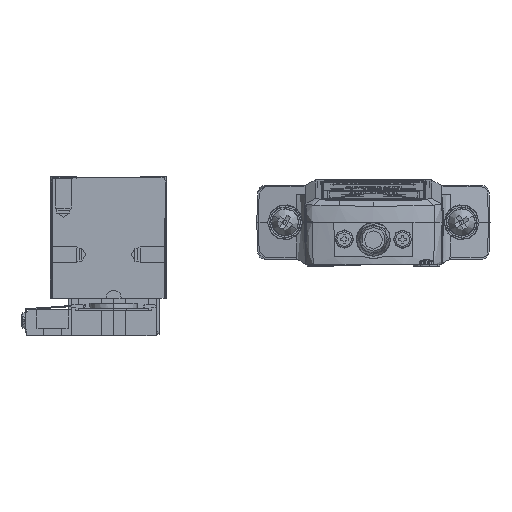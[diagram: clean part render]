
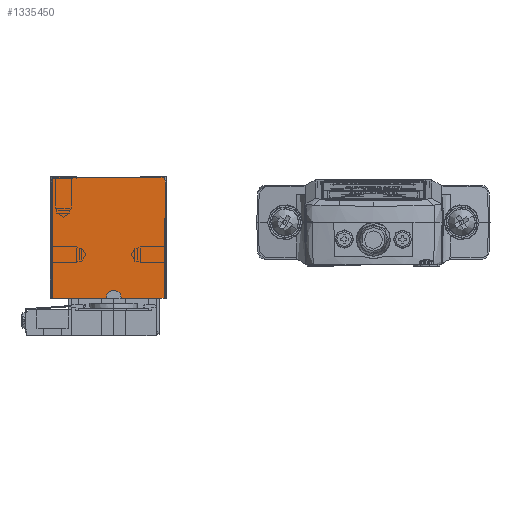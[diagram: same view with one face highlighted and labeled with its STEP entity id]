
A CAD part, left-side view. The second image highlights one B-rep face of the part: STEP entity #1335450.
In plain terms, the highlighted planar face has unit normal (-1, 0, 0).
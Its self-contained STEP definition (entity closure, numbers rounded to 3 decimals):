
#1308020=CARTESIAN_POINT('',(0.,21.5,0.));
#1308030=VERTEX_POINT('',#1308020);
#1308260=CARTESIAN_POINT('',(0.,17.,0.));
#1308270=VERTEX_POINT('',#1308260);
#1308300=CARTESIAN_POINT('',(0.,0.,0.));
#1308310=DIRECTION('',(0.,1.,0.));
#1308320=VECTOR('',#1308310,1.);
#1308330=LINE('',#1308300,#1308320);
#1308340=EDGE_CURVE('',#1308270,#1308030,#1308330,.T.);
#1308580=CARTESIAN_POINT('',(0.,0.5,-8.));
#1308590=VERTEX_POINT('',#1308580);
#1312770=CARTESIAN_POINT('',(0.,21.5,-23.));
#1312780=VERTEX_POINT('',#1312770);
#1312810=CARTESIAN_POINT('',(0.,0.,-23.));
#1312820=DIRECTION('',(0.,-1.,0.));
#1312830=VECTOR('',#1312820,1.);
#1312840=LINE('',#1312810,#1312830);
#1312850=CARTESIAN_POINT('',(0.,11.4,-23.));
#1312860=VERTEX_POINT('',#1312850);
#1312870=EDGE_CURVE('',#1312780,#1312860,#1312840,.T.);
#1313090=CARTESIAN_POINT('',(0.,8.6,-23.));
#1313100=VERTEX_POINT('',#1313090);
#1313130=CARTESIAN_POINT('',(0.,0.,-23.));
#1313140=DIRECTION('',(0.,1.,0.));
#1313150=VECTOR('',#1313140,1.);
#1313160=LINE('',#1313130,#1313150);
#1313170=CARTESIAN_POINT('',(0.,0.5,-23.));
#1313180=VERTEX_POINT('',#1313170);
#1313190=EDGE_CURVE('',#1313180,#1313100,#1313160,.T.);
#1321560=CARTESIAN_POINT('',(0.,0.5,0.));
#1321570=DIRECTION('',(0.,0.,-1.));
#1321580=VECTOR('',#1321570,1.);
#1321590=LINE('',#1321560,#1321580);
#1321600=CARTESIAN_POINT('',(0.,0.5,-7.9));
#1321610=VERTEX_POINT('',#1321600);
#1321620=EDGE_CURVE('',#1321610,#1308590,#1321590,.T.);
#1322490=CARTESIAN_POINT('',(0.,0.2,-1.1));
#1322500=VERTEX_POINT('',#1322490);
#1322530=CARTESIAN_POINT('',(0.,1.1,-1.1));
#1322540=DIRECTION('',(1.,0.,0.));
#1322550=DIRECTION('',(0.,-1.,0.));
#1322560=AXIS2_PLACEMENT_3D('',#1322530,#1322540,#1322550);
#1322570=CIRCLE('',#1322560,0.9);
#1322580=CARTESIAN_POINT('',(0.,1.1,-0.2));
#1322590=VERTEX_POINT('',#1322580);
#1322600=EDGE_CURVE('',#1322590,#1322500,#1322570,.T.);
#1323380=CARTESIAN_POINT('',(0.,21.5,-11.5));
#1323390=DIRECTION('',(0.,0.,-1.));
#1323400=VECTOR('',#1323390,1.);
#1323410=LINE('',#1323380,#1323400);
#1323420=EDGE_CURVE('',#1308030,#1312780,#1323410,.T.);
#1324350=CARTESIAN_POINT('',(0.,10.2,-22.8));
#1324360=DIRECTION('',(1.,0.,0.));
#1324370=DIRECTION('',(0.,-1.,0.));
#1324380=AXIS2_PLACEMENT_3D('',#1324350,#1324360,#1324370);
#1324390=CIRCLE('',#1324380,1.2);
#1324400=CARTESIAN_POINT('',(0.,11.4,-22.8));
#1324410=VERTEX_POINT('',#1324400);
#1324420=CARTESIAN_POINT('',(0.,10.2,-21.6));
#1324430=VERTEX_POINT('',#1324420);
#1324440=EDGE_CURVE('',#1324410,#1324430,#1324390,.T.);
#1325470=CARTESIAN_POINT('',(0.,0.5,-15.5));
#1325480=DIRECTION('',(0.,0.,-1.));
#1325490=VECTOR('',#1325480,1.);
#1325500=LINE('',#1325470,#1325490);
#1325510=EDGE_CURVE('',#1308590,#1313180,#1325500,.T.);
#1325630=CARTESIAN_POINT('',(0.,9.8,-22.8));
#1325640=DIRECTION('',(1.,0.,0.));
#1325650=DIRECTION('',(0.,-1.,0.));
#1325660=AXIS2_PLACEMENT_3D('',#1325630,#1325640,#1325650);
#1325670=CIRCLE('',#1325660,1.2);
#1325680=CARTESIAN_POINT('',(0.,9.8,-21.6));
#1325690=VERTEX_POINT('',#1325680);
#1325700=CARTESIAN_POINT('',(0.,8.6,-22.8));
#1325710=VERTEX_POINT('',#1325700);
#1325720=EDGE_CURVE('',#1325690,#1325710,#1325670,.T.);
#1327970=CARTESIAN_POINT('',(0.,0.,-21.6));
#1327980=DIRECTION('',(0.,1.,0.));
#1327990=VECTOR('',#1327980,1.);
#1328000=LINE('',#1327970,#1327990);
#1328010=EDGE_CURVE('',#1325690,#1324430,#1328000,.T.);
#1328280=CARTESIAN_POINT('',(0.,17.,-0.5));
#1328290=VERTEX_POINT('',#1328280);
#1328340=CARTESIAN_POINT('',(0.,17.,0.));
#1328350=DIRECTION('',(0.,0.,-1.));
#1328360=VECTOR('',#1328350,1.);
#1328370=LINE('',#1328340,#1328360);
#1328380=EDGE_CURVE('',#1308270,#1328290,#1328370,.T.);
#1329050=CARTESIAN_POINT('',(0.,11.4,0.));
#1329060=DIRECTION('',(0.,0.,-1.));
#1329070=VECTOR('',#1329060,1.);
#1329080=LINE('',#1329050,#1329070);
#1329090=EDGE_CURVE('',#1324410,#1312860,#1329080,.T.);
#1331770=CARTESIAN_POINT('',(0.,8.6,0.));
#1331780=DIRECTION('',(0.,0.,1.));
#1331790=VECTOR('',#1331780,1.);
#1331800=LINE('',#1331770,#1331790);
#1331810=EDGE_CURVE('',#1313100,#1325710,#1331800,.T.);
#1334440=CARTESIAN_POINT('',(0.,5.646,-7.9));
#1334450=DIRECTION('',(0.,1.,0.));
#1334460=VECTOR('',#1334450,1.);
#1334470=LINE('',#1334440,#1334460);
#1334480=CARTESIAN_POINT('',(0.,0.2,-7.9));
#1334490=VERTEX_POINT('',#1334480);
#1334500=EDGE_CURVE('',#1334490,#1321610,#1334470,.T.);
#1334960=CARTESIAN_POINT('',(0.,21.9,-6.));
#1334970=DIRECTION('',(-1.,-0.,-0.));
#1334980=DIRECTION('',(0.,0.,-1.));
#1334990=AXIS2_PLACEMENT_3D('',#1334960,#1334970,#1334980);
#1335000=PLANE('',#1334990);
#1335010=CARTESIAN_POINT('',(0.,5.646,
-0.2));
#1335020=DIRECTION('',(0.,-1.,0.));
#1335030=VECTOR('',#1335020,1.);
#1335040=LINE('',#1335010,#1335030);
#1335050=CARTESIAN_POINT('',(0.,16.95,-0.2));
#1335060=VERTEX_POINT('',#1335050);
#1335070=EDGE_CURVE('',#1335060,#1322590,#1335040,.T.);
#1335080=ORIENTED_EDGE('',*,*,#1335070,.F.);
#1335090=ORIENTED_EDGE('',*,*,#1322600,.F.);
#1335100=CARTESIAN_POINT('',(0.,0.2,
-0.2));
#1335110=DIRECTION('',(0.,0.,-1.));
#1335120=VECTOR('',#1335110,1.);
#1335130=LINE('',#1335100,#1335120);
#1335140=EDGE_CURVE('',#1322500,#1334490,#1335130,.T.);
#1335150=ORIENTED_EDGE('',*,*,#1335140,.F.);
#1335160=ORIENTED_EDGE('',*,*,#1334500,.F.);
#1335170=ORIENTED_EDGE('',*,*,#1321620,.F.);
#1335180=ORIENTED_EDGE('',*,*,#1325510,.F.);
#1335190=ORIENTED_EDGE('',*,*,#1313190,.F.);
#1335200=ORIENTED_EDGE('',*,*,#1331810,.F.);
#1335210=ORIENTED_EDGE('',*,*,#1325720,.T.);
#1335220=ORIENTED_EDGE('',*,*,#1328010,.F.);
#1335230=ORIENTED_EDGE('',*,*,#1324440,.T.);
#1335240=ORIENTED_EDGE('',*,*,#1329090,.F.);
#1335250=ORIENTED_EDGE('',*,*,#1312870,.T.);
#1335260=ORIENTED_EDGE('',*,*,#1323420,.T.);
#1335270=ORIENTED_EDGE('',*,*,#1308340,.T.);
#1335280=ORIENTED_EDGE('',*,*,#1328380,.F.);
#1335290=CARTESIAN_POINT('',(0.,0.,-0.5));
#1335300=DIRECTION('',(0.,1.,0.));
#1335310=VECTOR('',#1335300,1.);
#1335320=LINE('',#1335290,#1335310);
#1335330=CARTESIAN_POINT('',(0.,16.95,-0.5));
#1335340=VERTEX_POINT('',#1335330);
#1335350=EDGE_CURVE('',#1335340,#1328290,#1335320,.T.);
#1335360=ORIENTED_EDGE('',*,*,#1335350,.T.);
#1335370=CARTESIAN_POINT('',(0.,16.95,-0.8));
#1335380=DIRECTION('',(0.,0.,1.));
#1335390=VECTOR('',#1335380,1.);
#1335400=LINE('',#1335370,#1335390);
#1335410=EDGE_CURVE('',#1335340,#1335060,#1335400,.T.);
#1335420=ORIENTED_EDGE('',*,*,#1335410,.F.);
#1335430=EDGE_LOOP('',(#1335420,#1335360,#1335280,#1335270,#1335260,
#1335250,#1335240,#1335230,#1335220,#1335210,#1335200,#1335190,#1335180,
#1335170,#1335160,#1335150,#1335090,#1335080));
#1335440=FACE_OUTER_BOUND('',#1335430,.T.);
#1335450=ADVANCED_FACE('',(#1335440),#1335000,.T.);
